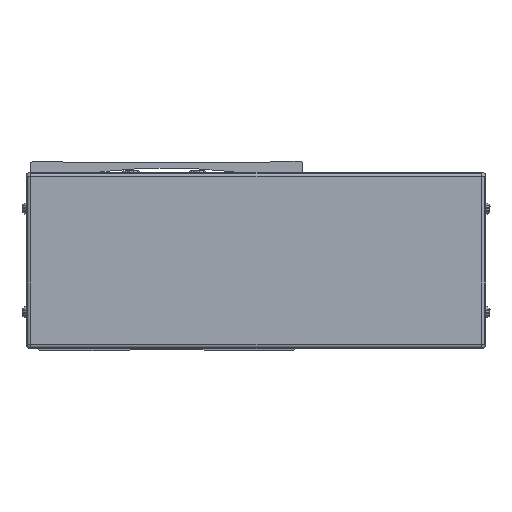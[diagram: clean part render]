
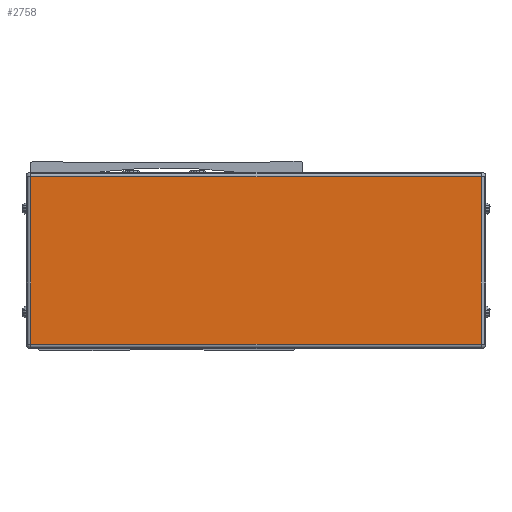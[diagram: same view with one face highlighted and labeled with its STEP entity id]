
A CAD part, front view. The second image highlights one B-rep face of the part: STEP entity #2758.
In plain terms, the highlighted planar face has unit normal (0, -1, 0).
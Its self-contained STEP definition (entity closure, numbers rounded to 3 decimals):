
#2758=ADVANCED_FACE('',(#7065),#7066,.T.);
#7065=FACE_OUTER_BOUND('',#13539,.T.);
#7066=PLANE('',#13540);
#13539=EDGE_LOOP('',(#22435,#22436,#22437,#22438));
#13540=AXIS2_PLACEMENT_3D('',#22439,#22440,#22441);
#22435=ORIENTED_EDGE('',*,*,#38717,.F.);
#22436=ORIENTED_EDGE('',*,*,#38959,.F.);
#22437=ORIENTED_EDGE('',*,*,#38410,.F.);
#22438=ORIENTED_EDGE('',*,*,#38440,.F.);
#22439=CARTESIAN_POINT('',(-259.5,-163.778,-8.));
#22440=DIRECTION('',(0.,-1.0,0.));
#22441=DIRECTION('',(1.0,0.,0.));
#38410=EDGE_CURVE('',#45886,#45888,#45889,.T.);
#38440=EDGE_CURVE('',#45942,#45886,#45944,.T.);
#38717=EDGE_CURVE('',#46321,#45942,#46387,.T.);
#38959=EDGE_CURVE('',#45888,#46321,#46780,.T.);
#45886=VERTEX_POINT('',#57101);
#45888=VERTEX_POINT('',#57103);
#45889=LINE('',#57104,#57105);
#45942=VERTEX_POINT('',#57171);
#45944=LINE('',#57173,#57174);
#46321=VERTEX_POINT('',#57712);
#46387=LINE('',#57815,#57816);
#46780=LINE('',#58377,#58378);
#57101=CARTESIAN_POINT('',(-361.7,-163.778,-46.));
#57103=CARTESIAN_POINT('',(-361.7,-163.778,30.));
#57104=CARTESIAN_POINT('',(-361.7,-163.778,-8.));
#57105=VECTOR('',#71117,10.0);
#57171=CARTESIAN_POINT('',(-157.3,-163.778,-46.));
#57173=CARTESIAN_POINT('',(-259.5,-163.778,-46.));
#57174=VECTOR('',#71170,10.0);
#57712=CARTESIAN_POINT('',(-157.3,-163.778,30.));
#57815=CARTESIAN_POINT('',(-157.3,-163.778,-8.));
#57816=VECTOR('',#71530,10.0);
#58377=CARTESIAN_POINT('',(-259.5,-163.778,30.));
#58378=VECTOR('',#71824,10.0);
#71117=DIRECTION('',(0.0,0.,1.0));
#71170=DIRECTION('',(-1.0,0.,0.));
#71530=DIRECTION('',(0.0,0.,-1.0));
#71824=DIRECTION('',(1.0,0.,0.));
